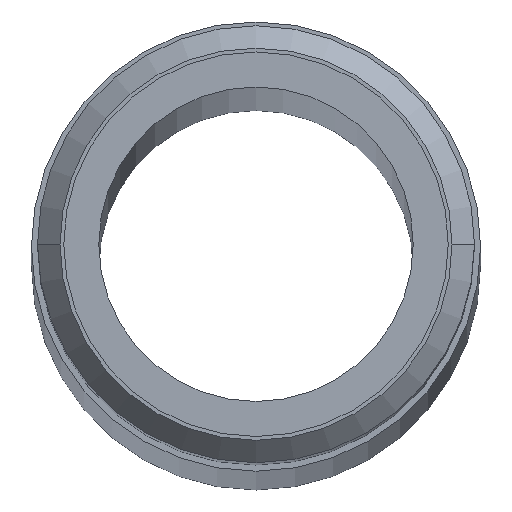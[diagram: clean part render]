
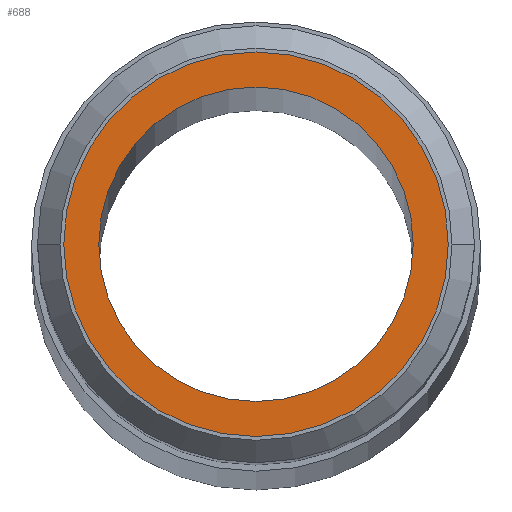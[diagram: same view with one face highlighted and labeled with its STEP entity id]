
A CAD part, top view. The second image highlights one B-rep face of the part: STEP entity #688.
In plain terms, the highlighted planar face has unit normal (0, 0, 1).
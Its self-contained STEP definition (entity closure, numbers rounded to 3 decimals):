
#13 = FACE_BOUND ( 'NONE', #918, .T. ) ;
#34 = DIRECTION ( 'NONE',  ( -1., 0., 0. ) ) ;
#51 = CARTESIAN_POINT ( 'NONE',  ( 4.28, 0., 300. ) ) ;
#116 = EDGE_CURVE ( 'NONE', #123, #645, #836, .T. ) ;
#123 = VERTEX_POINT ( 'NONE', #379 ) ;
#124 = AXIS2_PLACEMENT_3D ( 'NONE', #945, #595, #1080 ) ;
#125 = AXIS2_PLACEMENT_3D ( 'NONE', #51, #907, #1102 ) ;
#129 = DIRECTION ( 'NONE',  ( 0., 0., -1. ) ) ;
#202 = CIRCLE ( 'NONE', #401, 3.5 ) ;
#213 = VERTEX_POINT ( 'NONE', #1052 ) ;
#286 = CARTESIAN_POINT ( 'NONE',  ( 4.28, 0., 300. ) ) ;
#313 = VERTEX_POINT ( 'NONE', #743 ) ;
#365 = CARTESIAN_POINT ( 'NONE',  ( 0., 0., 300. ) ) ;
#379 = CARTESIAN_POINT ( 'NONE',  ( -4.28, 0., 300. ) ) ;
#383 = DIRECTION ( 'NONE',  ( -1., 0., 0. ) ) ;
#401 = AXIS2_PLACEMENT_3D ( 'NONE', #443, #784, #383 ) ;
#416 = EDGE_CURVE ( 'NONE', #313, #213, #529, .T. ) ;
#425 = AXIS2_PLACEMENT_3D ( 'NONE', #365, #543, #1128 ) ;
#443 = CARTESIAN_POINT ( 'NONE',  ( 0., 0., 300. ) ) ;
#507 = PLANE ( 'NONE',  #125 ) ;
#509 = ORIENTED_EDGE ( 'NONE', *, *, #116, .F. ) ;
#529 = CIRCLE ( 'NONE', #124, 3.5 ) ;
#543 = DIRECTION ( 'NONE',  ( 0., 0., -1. ) ) ;
#554 = EDGE_LOOP ( 'NONE', ( #509, #950 ) ) ;
#595 = DIRECTION ( 'NONE',  ( 0., 0., -1. ) ) ;
#621 = ORIENTED_EDGE ( 'NONE', *, *, #416, .T. ) ;
#645 = VERTEX_POINT ( 'NONE', #286 ) ;
#688 = ADVANCED_FACE ( 'NONE', ( #13, #964 ), #507, .T. ) ;
#743 = CARTESIAN_POINT ( 'NONE',  ( 3.5, 0., 300. ) ) ;
#757 = AXIS2_PLACEMENT_3D ( 'NONE', #794, #129, #34 ) ;
#784 = DIRECTION ( 'NONE',  ( 0., 0., -1. ) ) ;
#794 = CARTESIAN_POINT ( 'NONE',  ( 0., 0., 300. ) ) ;
#836 = CIRCLE ( 'NONE', #757, 4.28 ) ;
#897 = EDGE_CURVE ( 'NONE', #645, #123, #1213, .T. ) ;
#907 = DIRECTION ( 'NONE',  ( 0., 0., 1. ) ) ;
#918 = EDGE_LOOP ( 'NONE', ( #1110, #621 ) ) ;
#923 = EDGE_CURVE ( 'NONE', #213, #313, #202, .T. ) ;
#945 = CARTESIAN_POINT ( 'NONE',  ( 0., 0., 300. ) ) ;
#950 = ORIENTED_EDGE ( 'NONE', *, *, #897, .F. ) ;
#964 = FACE_OUTER_BOUND ( 'NONE', #554, .T. ) ;
#1052 = CARTESIAN_POINT ( 'NONE',  ( -3.5, 0., 300. ) ) ;
#1080 = DIRECTION ( 'NONE',  ( -1., 0., 0. ) ) ;
#1102 = DIRECTION ( 'NONE',  ( 1., 0., 0. ) ) ;
#1110 = ORIENTED_EDGE ( 'NONE', *, *, #923, .T. ) ;
#1128 = DIRECTION ( 'NONE',  ( -1., 0., 0. ) ) ;
#1213 = CIRCLE ( 'NONE', #425, 4.28 ) ;
